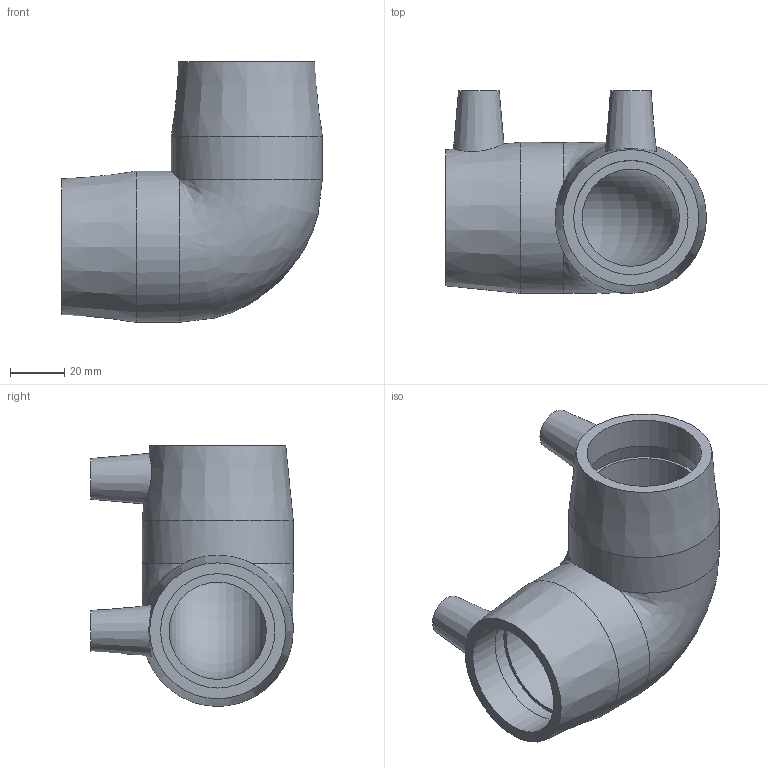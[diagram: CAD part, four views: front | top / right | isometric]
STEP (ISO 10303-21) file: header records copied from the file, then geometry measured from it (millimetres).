
FILE_DESCRIPTION(/* description */ ('PLASSON 90° ELBOW ASTM 1 1/4'''''),/* implementation_level */ '2;1');
FILE_NAME(/* name */ 'C:\Dropbox\KIMPROJECTS-Inventor 2019\99-16-3568-Processing Inch\ASTM ElectroFusion 2021\5905B\5905B003013.ipt.stp',/* time_stamp */ '2021-08-30T09:49:47+03:00',/* author */ ('KIM'),/* organization */ (''),/* preprocessor_version */ 'ST-DEVELOPER v17.2',/* originating_system */ 'Autodesk Inventor 2019',/* authorisation */ '');
FILE_SCHEMA (('AUTOMOTIVE_DESIGN { 1 0 10303 214 3 1 1 }'));
Length unit declared in the file: inch
Products named in the file (1): 5905B003013
Bounding box: 96 x 74.55 x 96 mm (x, y, z)
Volume: 140425.7 mm3; surface area: 42949 mm2
Topology: 1 solids, 1 shells, 30 faces, 66 edges, 46 vertices
Faces by surface type: plane 12, cylinder 10, cone 6, bspline 1, torus 1
Full cylindrical faces by diameter (mm): 4 x2, 10 x2, 42.1 x4, 55.626 x2
Entity records: 981 total; most frequent: CARTESIAN_POINT 235, DIRECTION 164, ORIENTED_EDGE 128, AXIS2_PLACEMENT_3D 74, EDGE_CURVE 64, VERTEX_POINT 46, CIRCLE 43, EDGE_LOOP 42
